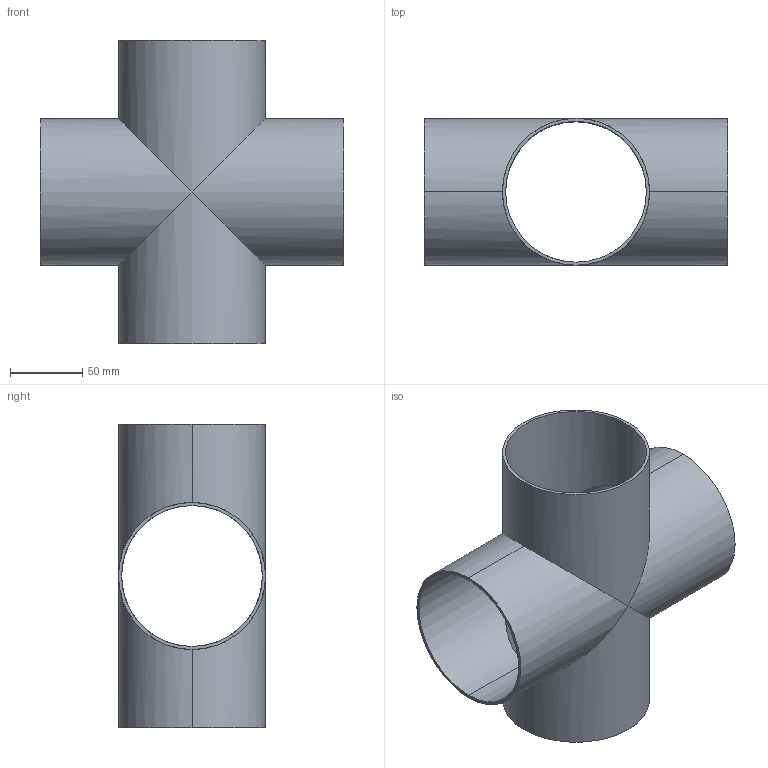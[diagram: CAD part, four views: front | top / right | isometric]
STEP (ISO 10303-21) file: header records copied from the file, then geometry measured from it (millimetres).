
FILE_DESCRIPTION (( 'STEP AP214' ), '1' );
FILE_NAME ('TE9WWWW6L4.0-...STEP', '2016-05-22T04:57:44', ( 'eran' ), ( '' ), 'SwSTEP 2.0', 'SolidWorks 2016', '' );
FILE_SCHEMA (( 'AUTOMOTIVE_DESIGN' ));
Length unit declared in the file: millimetre
Products named in the file (1): TE9WWWW6L4.0-..
Bounding box: 209.55 x 101.6 x 209.55 mm (x, y, z)
Volume: 192678.2 mm3; surface area: 185401.4 mm2
Topology: 1 solids, 1 shells, 20 faces, 48 edges, 28 vertices
Faces by surface type: cylinder 16, plane 4
Entity records: 618 total; most frequent: CARTESIAN_POINT 145, ORIENTED_EDGE 96, DIRECTION 90, EDGE_CURVE 48, AXIS2_PLACEMENT_3D 37, VERTEX_POINT 28, EDGE_LOOP 24, ADVANCED_FACE 20
